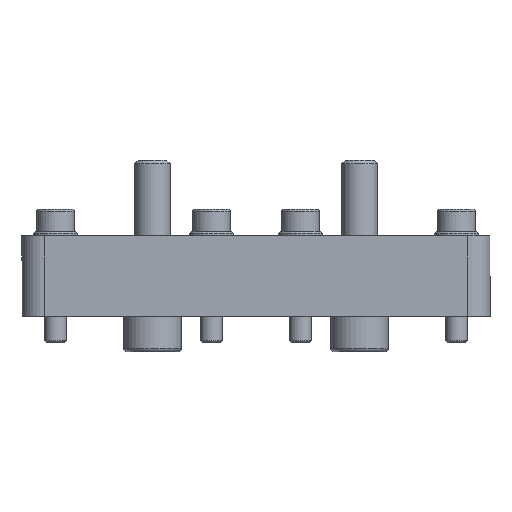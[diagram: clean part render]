
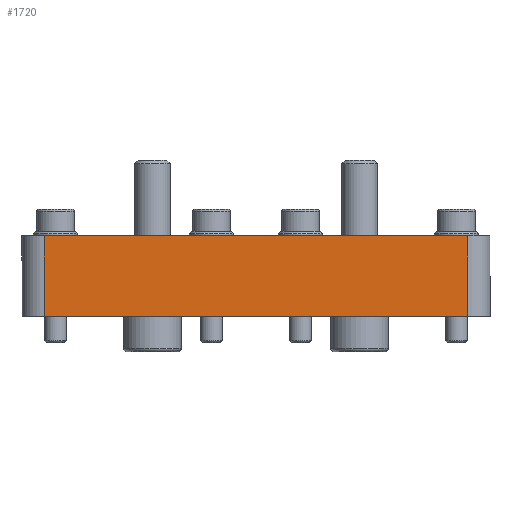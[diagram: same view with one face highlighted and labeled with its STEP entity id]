
A CAD part, front view. The second image highlights one B-rep face of the part: STEP entity #1720.
In plain terms, the highlighted planar face has unit normal (0, -1, 0) as drawn and (1, 0, 0) by its records, which use the part's own axes.
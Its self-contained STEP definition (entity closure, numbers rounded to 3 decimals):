
#194=LINE('',#2616,#298);
#212=LINE('',#2716,#316);
#264=LINE('',#2892,#368);
#265=LINE('',#2894,#369);
#298=VECTOR('',#2070,10.);
#316=VECTOR('',#2154,10.);
#368=VECTOR('',#2358,10.);
#369=VECTOR('',#2361,10.);
#417=PLANE('',#1944);
#606=FACE_OUTER_BOUND('',#755,.T.);
#755=EDGE_LOOP('',(#1525,#1526,#1527,#1528));
#912=VERTEX_POINT('',#2613);
#913=VERTEX_POINT('',#2615);
#961=VERTEX_POINT('',#2713);
#962=VERTEX_POINT('',#2715);
#1063=EDGE_CURVE('',#912,#913,#194,.T.);
#1112=EDGE_CURVE('',#961,#962,#212,.T.);
#1195=EDGE_CURVE('',#913,#961,#264,.T.);
#1196=EDGE_CURVE('',#912,#962,#265,.T.);
#1525=ORIENTED_EDGE('',*,*,#1195,.F.);
#1526=ORIENTED_EDGE('',*,*,#1063,.F.);
#1527=ORIENTED_EDGE('',*,*,#1196,.T.);
#1528=ORIENTED_EDGE('',*,*,#1112,.F.);
#1720=ADVANCED_FACE('',(#606),#417,.T.);
#1944=AXIS2_PLACEMENT_3D('',#2893,#2359,#2360);
#2070=DIRECTION('',(0.,0.,-1.));
#2154=DIRECTION('',(0.,0.,1.));
#2358=DIRECTION('',(0.,-1.,0.));
#2359=DIRECTION('center_axis',(1.,0.,0.));
#2360=DIRECTION('ref_axis',(0.,0.,-1.));
#2361=DIRECTION('',(0.,-1.,0.));
#2613=CARTESIAN_POINT('',(75.,9.,47.5));
#2615=CARTESIAN_POINT('',(75.,9.,-47.5));
#2616=CARTESIAN_POINT('',(75.,9.,-47.5));
#2713=CARTESIAN_POINT('',(75.,-9.,-47.5));
#2715=CARTESIAN_POINT('',(75.,-9.,47.5));
#2716=CARTESIAN_POINT('',(75.,-9.,-47.5));
#2892=CARTESIAN_POINT('',(75.,0.,-47.5));
#2893=CARTESIAN_POINT('Origin',(75.,0.,47.5));
#2894=CARTESIAN_POINT('',(75.,0.,47.5));
